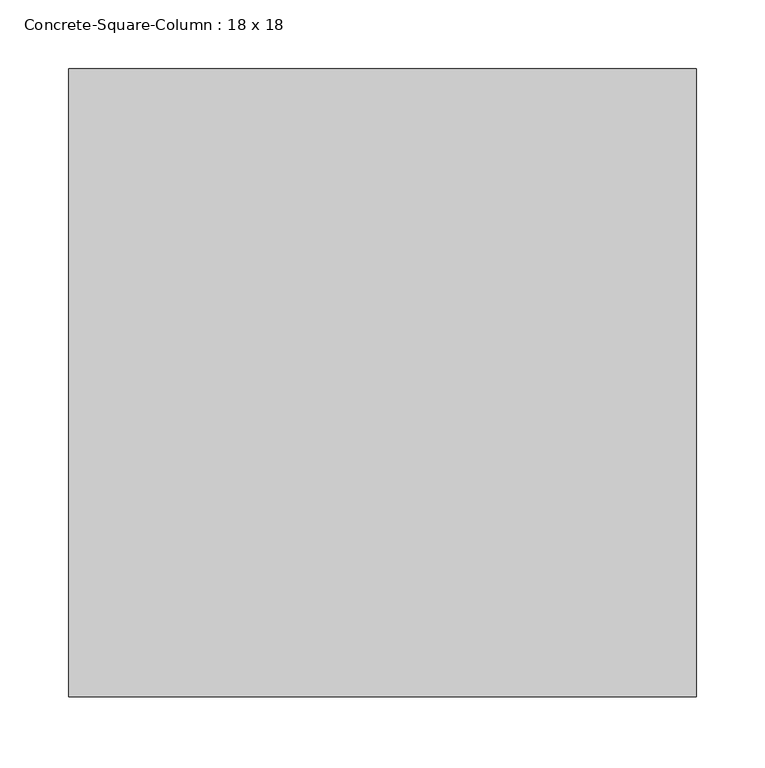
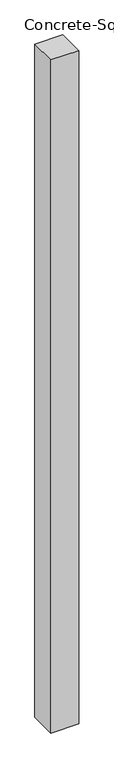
"""IFC4 building model written with IfcOpenShell, lengths in millimetres: column geometry, Concrete-Square-Column : 18 x 18."""

from ifc_helpers import new_model, si_unit, origin, origin_with_axes, place, context, project, spatial, polyline, outline, extrude, source, transform, mapped, element, save


def concrete_square_column_18_x_18_3c38657b(model_context):
    return source(origin(), model_context, "Body", "SweptSolid", [
        extrude(outline(polyline([(228.6, 228.6), (228.6, -228.6), (-228.6, -228.6), (-228.6, 228.6), (228.6, 228.6)])), origin_with_axes(), (0.0, 0.0, 1.0), 11734.8),
    ])


if __name__ == "__main__":
    model = new_model("IFC4")
    model_context = context("Model", 3, world=origin())
    ifc_project = project(units=[si_unit("LENGTHUNIT", "METRE", prefix="MILLI")], contexts=[model_context])
    site = spatial("IfcSite", under=ifc_project)
    building = spatial("IfcBuilding", under=site)
    placement = place(None, origin())
    concrete_square_column_18_x_18_shape = concrete_square_column_18_x_18_3c38657b(model_context)
    element("IfcColumn", 1, ObjectType="Concrete-Square-Column : 18 x 18", at=placement, inside=building, context=model_context, shape_type="MappedRepresentation", body=[
        mapped(concrete_square_column_18_x_18_shape, transform((0.0, 0.0, 0.0), x_axis=(1.0, 0.0, 0.0), y_axis=(0.0, 1.0, 0.0), z_axis=(0.0, 0.0, 1.0))),
    ])
    save(model, "model.ifc")
